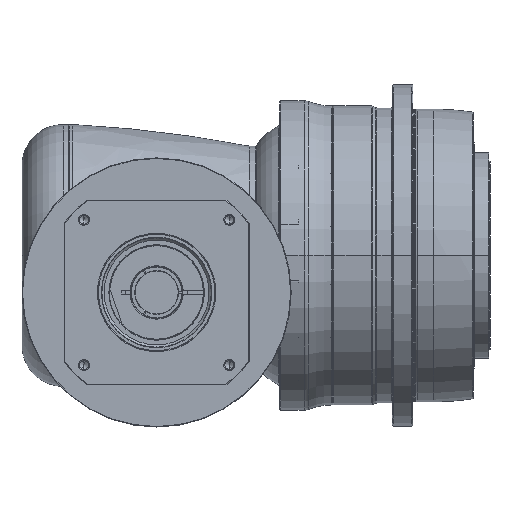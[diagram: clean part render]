
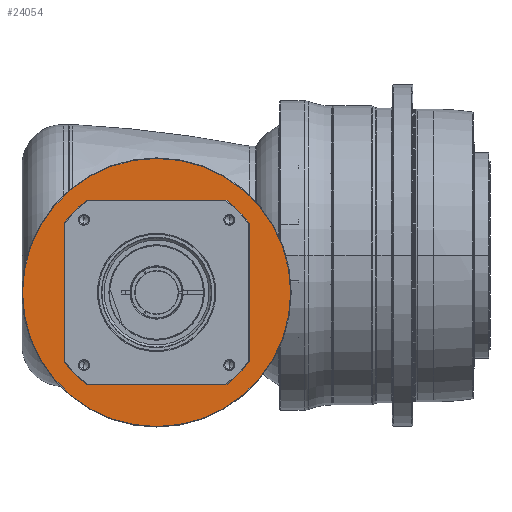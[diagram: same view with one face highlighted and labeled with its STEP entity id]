
A CAD part, front view. The second image highlights one B-rep face of the part: STEP entity #24054.
In plain terms, the highlighted planar face has unit normal (0, -1, 0) as drawn and (1, 0, 0) by its records, which use the part's own axes.
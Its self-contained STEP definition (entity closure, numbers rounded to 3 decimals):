
#22743=CARTESIAN_POINT('',(-3.5,0.,0.));
#22744=DIRECTION('',(-1.,0.,0.));
#22745=DIRECTION('',(0.,-1.,0.));
#22746=AXIS2_PLACEMENT_3D('',#22743,#22744,#22745);
#22748=CARTESIAN_POINT('',(-3.5,0.,0.));
#22749=DIRECTION('',(-1.,0.,0.));
#22750=DIRECTION('',(0.,1.,0.));
#22751=AXIS2_PLACEMENT_3D('',#22748,#22749,#22750);
#22753=CARTESIAN_POINT('',(-3.5,0.,0.));
#22754=DIRECTION('',(-1.,0.,0.));
#22755=DIRECTION('',(0.,-1.,0.));
#22756=AXIS2_PLACEMENT_3D('',#22753,#22754,#22755);
#22758=CARTESIAN_POINT('',(-3.5,0.,0.));
#22759=DIRECTION('',(-1.,0.,0.));
#22760=DIRECTION('',(0.,1.,0.));
#22761=AXIS2_PLACEMENT_3D('',#22758,#22759,#22760);
#23031=CARTESIAN_POINT('',(-3.5,-130.5,0.));
#23032=CARTESIAN_POINT('',(-3.5,130.5,0.));
#23033=VERTEX_POINT('',#23031);
#23034=VERTEX_POINT('',#23032);
#23089=CARTESIAN_POINT('',(-3.5,-74.5,0.));
#23090=CARTESIAN_POINT('',(-3.5,74.5,0.));
#23091=VERTEX_POINT('',#23089);
#23092=VERTEX_POINT('',#23090);
#24039=CARTESIAN_POINT('',(-3.5,0.,0.));
#24040=DIRECTION('',(1.,0.,0.));
#24041=DIRECTION('',(0.,-1.,0.));
#24042=AXIS2_PLACEMENT_3D('',#24039,#24040,#24041);
#24043=PLANE('',#24042);
#24044=ORIENTED_EDGE('',*,*,#23995,.T.);
#24045=ORIENTED_EDGE('',*,*,#23980,.T.);
#24046=EDGE_LOOP('',(#24044,#24045));
#24047=FACE_OUTER_BOUND('',#24046,.F.);
#24049=ORIENTED_EDGE('',*,*,#24048,.F.);
#24051=ORIENTED_EDGE('',*,*,#24050,.F.);
#24052=EDGE_LOOP('',(#24049,#24051));
#24053=FACE_BOUND('',#24052,.F.);
#24054=ADVANCED_FACE('',(#24047,#24053),#24043,.T.);
#22747=CIRCLE('',#22746,74.5);
#22752=CIRCLE('',#22751,74.5);
#22757=CIRCLE('',#22756,130.5);
#22762=CIRCLE('',#22761,130.5);
#23980=EDGE_CURVE('',#23034,#23033,#22762,.T.);
#23995=EDGE_CURVE('',#23033,#23034,#22757,.T.);
#24048=EDGE_CURVE('',#23091,#23092,#22747,.T.);
#24050=EDGE_CURVE('',#23092,#23091,#22752,.T.);
